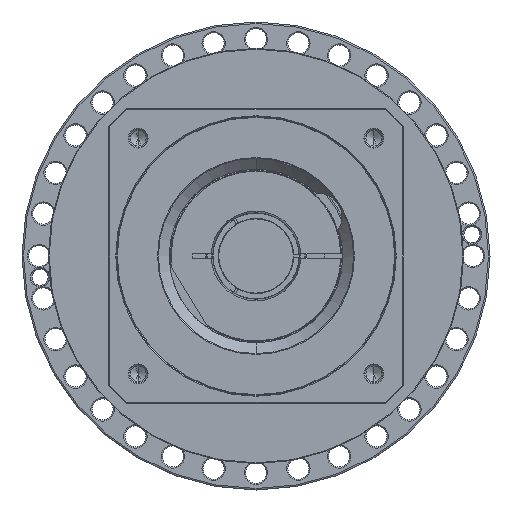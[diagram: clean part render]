
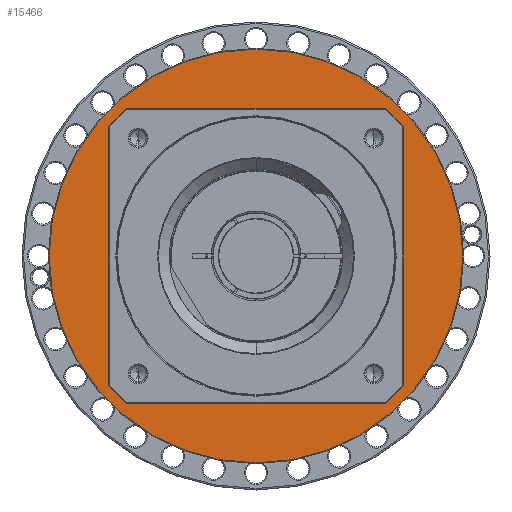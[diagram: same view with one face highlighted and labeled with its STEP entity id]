
A CAD part, left-side view. The second image highlights one B-rep face of the part: STEP entity #15466.
In plain terms, the highlighted planar face has unit normal (-1, 0, 0) as drawn and (1, 0, 0) by its records, which use the part's own axes.
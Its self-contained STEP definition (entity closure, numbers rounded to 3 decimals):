
#14945=CARTESIAN_POINT('',(-6.,0.,0.));
#14946=DIRECTION('',(-1.,0.,0.));
#14947=DIRECTION('',(0.,-1.,0.));
#14948=AXIS2_PLACEMENT_3D('',#14945,#14946,#14947);
#14950=CARTESIAN_POINT('',(-6.,0.,0.));
#14951=DIRECTION('',(-1.,0.,0.));
#14952=DIRECTION('',(0.,1.,0.));
#14953=AXIS2_PLACEMENT_3D('',#14950,#14951,#14952);
#14955=CARTESIAN_POINT('',(-6.,0.,0.));
#14956=DIRECTION('',(-1.,0.,0.));
#14957=DIRECTION('',(0.,-1.,0.));
#14958=AXIS2_PLACEMENT_3D('',#14955,#14956,#14957);
#14960=CARTESIAN_POINT('',(-6.,0.,0.));
#14961=DIRECTION('',(-1.,0.,0.));
#14962=DIRECTION('',(0.,1.,0.));
#14963=AXIS2_PLACEMENT_3D('',#14960,#14961,#14962);
#15029=CARTESIAN_POINT('',(-6.,-133.5,0.));
#15030=CARTESIAN_POINT('',(-6.,133.5,0.));
#15031=VERTEX_POINT('',#15029);
#15032=VERTEX_POINT('',#15030);
#15053=CARTESIAN_POINT('',(-6.,-94.,0.));
#15054=CARTESIAN_POINT('',(-6.,94.,0.));
#15055=VERTEX_POINT('',#15053);
#15056=VERTEX_POINT('',#15054);
#15451=CARTESIAN_POINT('',(-6.,0.,0.));
#15452=DIRECTION('',(1.,0.,0.));
#15453=DIRECTION('',(0.,-1.,0.));
#15454=AXIS2_PLACEMENT_3D('',#15451,#15452,#15453);
#15455=PLANE('',#15454);
#15456=ORIENTED_EDGE('',*,*,#15392,.T.);
#15457=ORIENTED_EDGE('',*,*,#15407,.T.);
#15458=EDGE_LOOP('',(#15456,#15457));
#15459=FACE_OUTER_BOUND('',#15458,.F.);
#15461=ORIENTED_EDGE('',*,*,#15460,.F.);
#15463=ORIENTED_EDGE('',*,*,#15462,.F.);
#15464=EDGE_LOOP('',(#15461,#15463));
#15465=FACE_BOUND('',#15464,.F.);
#15466=ADVANCED_FACE('',(#15459,#15465),#15455,.T.);
#14949=CIRCLE('',#14948,94.);
#14954=CIRCLE('',#14953,94.);
#14959=CIRCLE('',#14958,133.5);
#14964=CIRCLE('',#14963,133.5);
#15392=EDGE_CURVE('',#15031,#15032,#14959,.T.);
#15407=EDGE_CURVE('',#15032,#15031,#14964,.T.);
#15460=EDGE_CURVE('',#15055,#15056,#14949,.T.);
#15462=EDGE_CURVE('',#15056,#15055,#14954,.T.);
